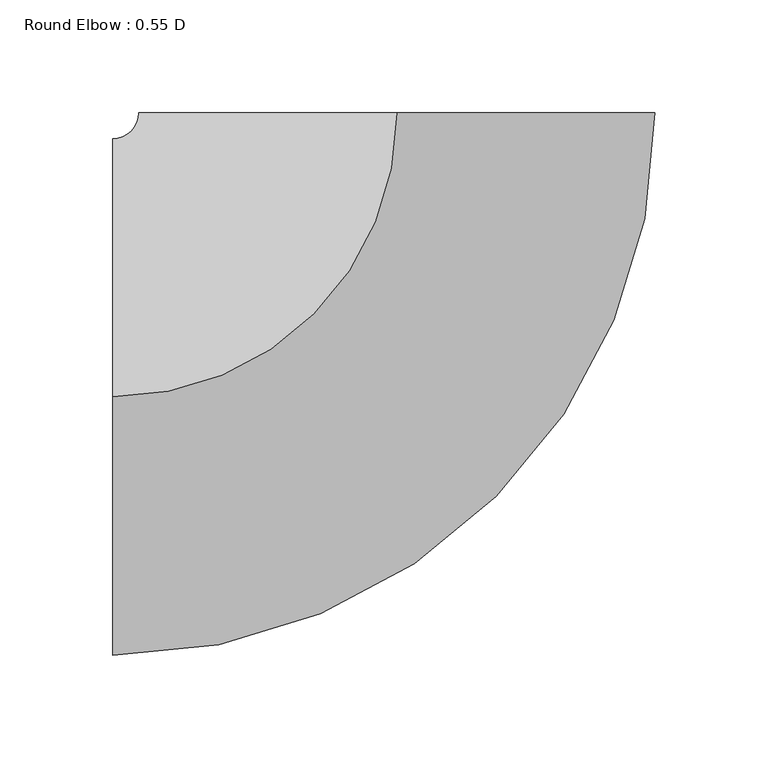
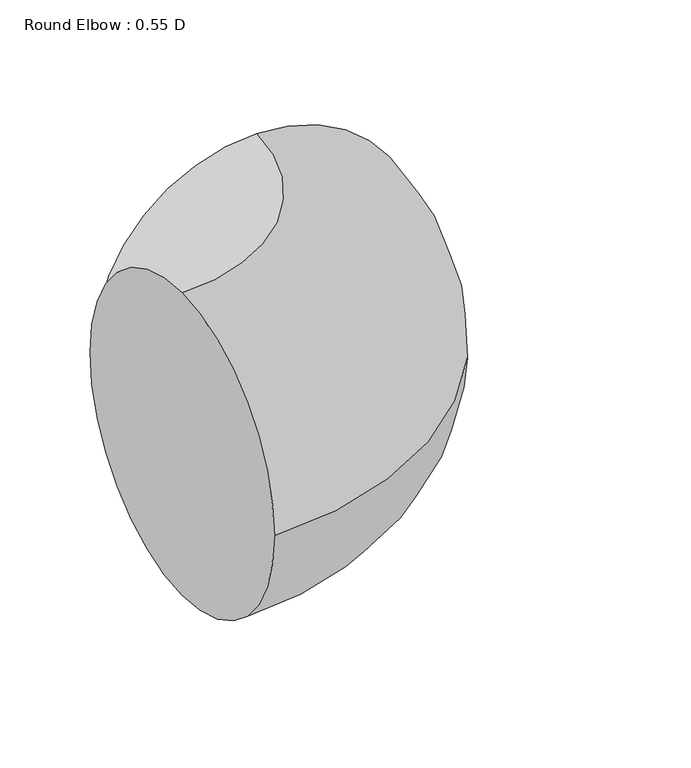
"""IFC4 building model written with IfcOpenShell, lengths in millimetres: duct fitting geometry, Round Elbow : 0.55 D."""

from ifc_helpers import new_model, si_unit, point, frame, origin, place, context, project, spatial, circle_curve, ellipse_curve, trimmed, source, transform, mapped, element, save
from ifc_brep_helpers import plane_surface, revolved_surface, advanced_brep


def round_elbow_0_55_d_550099a1(model_context):
    return source(origin(), model_context, "Body", "AdvancedBrep", [
        advanced_brep(
        [(-125.73, 0.0, 114.3), (-125.73, 114.3, 0.0), (-125.73, 0.0, -114.3), (-125.73, -114.3, 0.0), (0.0, 125.73, 114.3), (114.3, 125.73, 0.0), (0.0, 125.73, -114.3), (-114.3, 125.73, 0.0)],
        [
            (0, 1, circle_curve(frame((-125.73, 0.0, 0.0), z_axis=(-1.0, 0.0, 0.0), x_axis=(0.0, 1.0, 0.0)), 114.3)),
            (1, 2, circle_curve(frame((-125.73, 0.0, 0.0), z_axis=(-1.0, 0.0, 0.0), x_axis=(0.0, 1.0, 0.0)), 114.3)),
            (2, 3, circle_curve(frame((-125.73, 0.0, 0.0), z_axis=(-1.0, 0.0, 0.0), x_axis=(0.0, 1.0, 0.0)), 114.3)),
            (3, 0, circle_curve(frame((-125.73, 0.0, 0.0), z_axis=(-1.0, 0.0, 0.0), x_axis=(0.0, 1.0, 0.0)), 114.3)),
            (4, 5, circle_curve(frame((0.0, 125.73, 0.0), z_axis=(0.0, 1.0, 0.0), x_axis=(-1.0, 0.0, 0.0)), 114.3)),
            (5, 6, circle_curve(frame((0.0, 125.73, 0.0), z_axis=(0.0, 1.0, 0.0), x_axis=(-1.0, 0.0, 0.0)), 114.3)),
            (6, 7, circle_curve(frame((0.0, 125.73, 0.0), z_axis=(0.0, 1.0, 0.0), x_axis=(-1.0, 0.0, 0.0)), 114.3)),
            (7, 4, circle_curve(frame((0.0, 125.73, 0.0), z_axis=(0.0, 1.0, 0.0), x_axis=(-1.0, 0.0, 0.0)), 114.3)),
            (7, 1, circle_curve(frame((-125.73, 125.73, 0.0), z_axis=(0.0, 0.0, -1.0), x_axis=(0.0, -1.0, 0.0)), 11.43)),
            (0, 4, circle_curve(frame((-125.73, 125.73, 114.3), z_axis=(0.0, 0.0, 1.0), x_axis=(0.0, -1.0, 0.0)), 125.73)),
            (6, 2, circle_curve(frame((-125.73, 125.73, -114.3), z_axis=(0.0, 0.0, -1.0), x_axis=(0.0, -1.0, 0.0)), 125.73)),
            (5, 3, circle_curve(frame((-125.73, 125.73, 0.0), z_axis=(0.0, 0.0, -1.0), x_axis=(0.0, -1.0, 0.0)), 240.03)),
        ],
        [
            plane_surface(frame((-125.73, 0.0, 0.0), z_axis=(-1.0, 0.0, 0.0), x_axis=(0.0, 0.0, 1.0))),
            plane_surface(frame((0.0, 125.73, 0.0), z_axis=(0.0, 1.0, 0.0), x_axis=(0.0, 0.0, 1.0))),
            revolved_surface(trimmed(ellipse_curve(frame((-125.73, 0.0, 0.0), z_axis=(-1.0, 0.0, 0.0), x_axis=(0.0, 1.0, 0.0)), 114.3, 114.3), [point((-125.73, 0.0, 114.3))], [point((-125.73, 114.3, 0.0))], True, "CARTESIAN"), (-125.73, 125.73, 0.0), (0.0, 0.0, 1.0)),
            revolved_surface(trimmed(ellipse_curve(frame((-125.73, 0.0, 0.0), z_axis=(-1.0, 0.0, 0.0), x_axis=(0.0, 1.0, 0.0)), 114.3, 114.3), [point((-125.73, 114.3, 0.0))], [point((-125.73, 0.0, -114.3))], True, "CARTESIAN"), (-125.73, 125.73, 0.0), (0.0, 0.0, 1.0)),
            revolved_surface(trimmed(ellipse_curve(frame((-125.73, 0.0, 0.0), z_axis=(-1.0, 0.0, 0.0), x_axis=(0.0, 1.0, 0.0)), 114.3, 114.3), [point((-125.73, 0.0, -114.3))], [point((-125.73, -114.3, 0.0))], True, "CARTESIAN"), (-125.73, 125.73, 0.0), (0.0, 0.0, 1.0)),
            revolved_surface(trimmed(ellipse_curve(frame((-125.73, 0.0, 0.0), z_axis=(-1.0, 0.0, 0.0), x_axis=(0.0, 1.0, 0.0)), 114.3, 114.3), [point((-125.73, -114.3, 0.0))], [point((-125.73, 0.0, 114.3))], True, "CARTESIAN"), (-125.73, 125.73, 0.0), (0.0, 0.0, 1.0)),
        ],
        [
            (0, [[1, 2, 3, 4]]),
            (1, [[5, 6, 7, 8]]),
            (2, [[9, -1, 10, -8]]),
            (3, [[11, -2, -9, -7]]),
            (4, [[12, -3, -11, -6]]),
            (5, [[-10, -4, -12, -5]]),
        ],
    ),
    ])


if __name__ == "__main__":
    model = new_model("IFC4")
    model_context = context("Model", 3, world=origin())
    ifc_project = project(units=[si_unit("LENGTHUNIT", "METRE", prefix="MILLI")], contexts=[model_context])
    site = spatial("IfcSite", under=ifc_project)
    building = spatial("IfcBuilding", under=site)
    placement = place(None, origin())
    round_elbow_0_55_d_shape = round_elbow_0_55_d_550099a1(model_context)
    element("IfcDuctFitting", 1, ObjectType="Round Elbow : 0.55 D", at=placement, inside=building, context=model_context, shape_type="MappedRepresentation", body=[
        mapped(round_elbow_0_55_d_shape, transform((0.0, 0.0, 0.0), x_axis=(1.0, 0.0, 0.0), y_axis=(0.0, 1.0, 0.0), z_axis=(0.0, 0.0, 1.0))),
    ])
    save(model, "model.ifc")
